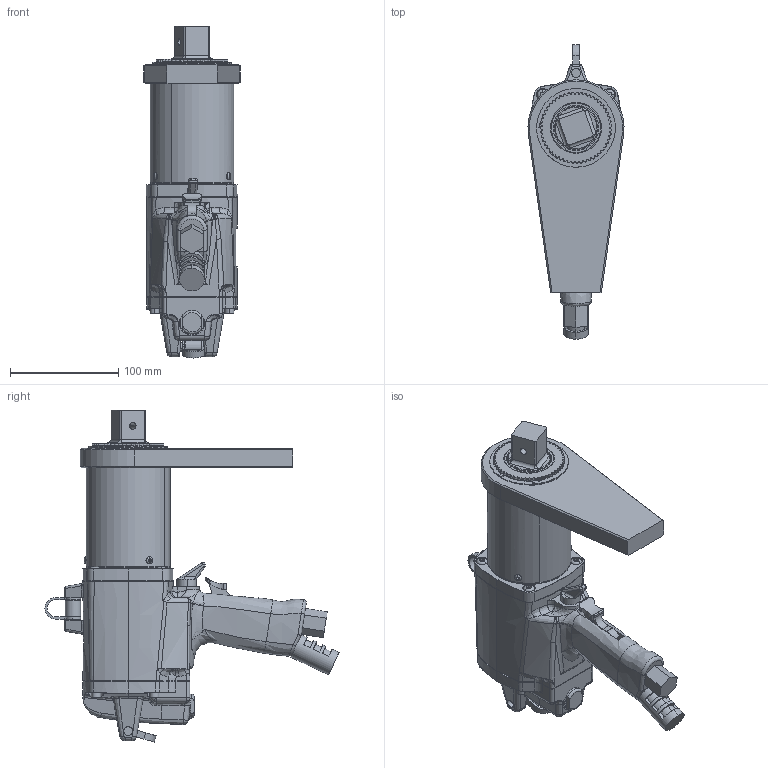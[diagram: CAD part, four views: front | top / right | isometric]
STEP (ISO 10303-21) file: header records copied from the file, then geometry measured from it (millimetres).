
FILE_DESCRIPTION (( 'STEP AP214' ), '1' );
FILE_NAME ('AAP1B771350A.STEP', '2014-12-06T00:12:39', ( 'AIMCO' ), ( '' ), 'SwSTEP 2.0', 'SolidWorks 2014', '' );
FILE_SCHEMA (( 'AUTOMOTIVE_DESIGN' ));
Length unit declared in the file: inch
Products named in the file (1): AAP1B771350A
Bounding box: 88.86 x 272.07 x 306.97 mm (x, y, z)
Surface area: 170448.9 mm2 (no closed solid volume)
Topology: 0 solids, 28 shells, 860 faces, 3274 edges, 2400 vertices
Faces by surface type: cylinder 285, bspline 249, plane 222, cone 79, torus 25
Entity records: 113127 total; most frequent: CARTESIAN_POINT 78227, ORIENTED_EDGE 5254, DIRECTION 3781, EDGE_CURVE 3248, VERTEX_POINT 2400, B_SPLINE_CURVE_WITH_KNOTS 1397, AXIS2_PLACEMENT_3D 1391, LINE 999
